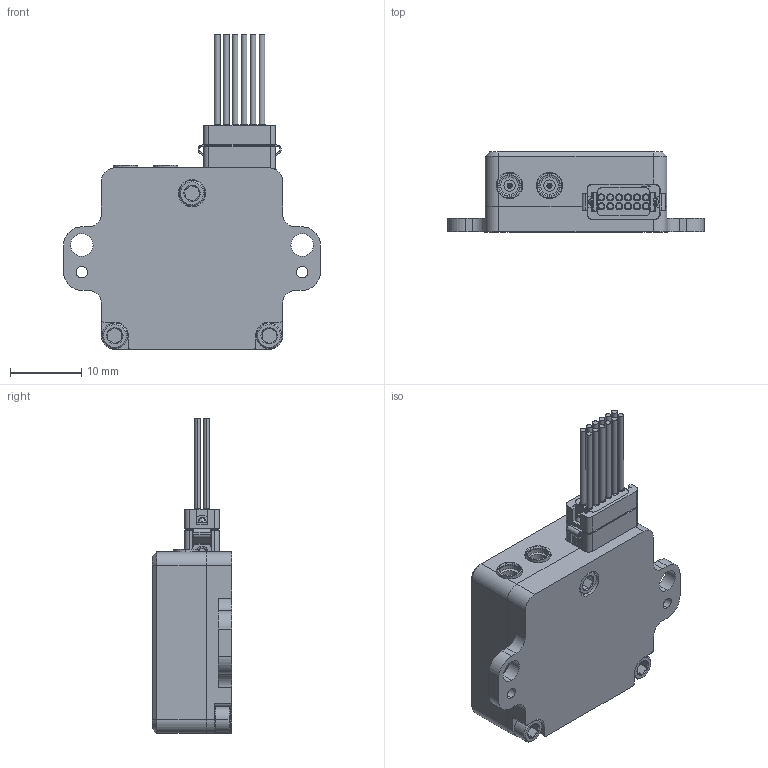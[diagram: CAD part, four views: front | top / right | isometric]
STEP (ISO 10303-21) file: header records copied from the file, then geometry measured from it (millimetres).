
FILE_DESCRIPTION (( 'STEP AP214' ), '1' );
FILE_NAME ('Ruggedized uINS Assembly.STEP', '2018-04-07T21:57:30', ( '' ), ( '' ), 'SwSTEP 2.0', 'SolidWorks 2015', '' );
FILE_SCHEMA (( 'AUTOMOTIVE_DESIGN' ));
Length unit declared in the file: inch
Products named in the file (1): Ruggedized uINS Assembly
Bounding box: 35.92 x 11.18 x 44.05 mm (x, y, z)
Volume: 3203.6 mm3; surface area: 8352.7 mm2
Topology: 51 solids, 51 shells, 4273 faces, 10585 edges, 6434 vertices
Faces by surface type: bspline 1630, cylinder 1065, plane 1059, cone 375, torus 144
Entity records: 227290 total; most frequent: CARTESIAN_POINT 89632, ORIENTED_EDGE 21010, DIRECTION 14443, EDGE_CURVE 10505, VERTEX_POINT 6428, AXIS2_PLACEMENT_3D 5385, EDGE_LOOP 4499, ADVANCED_FACE 4273
